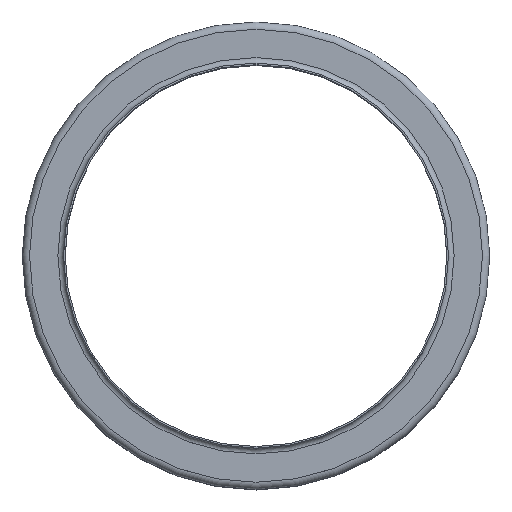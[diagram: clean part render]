
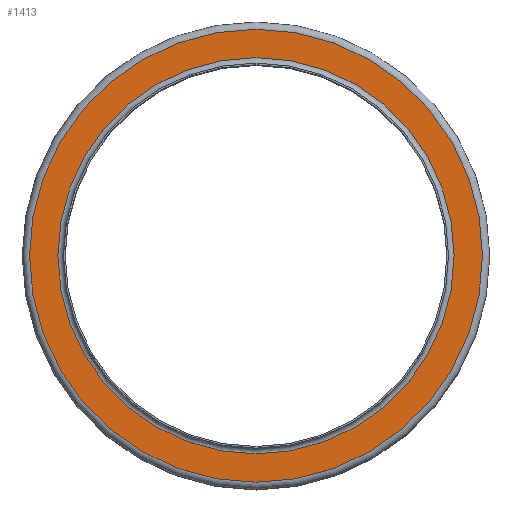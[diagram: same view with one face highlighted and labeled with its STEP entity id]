
A CAD part, top view. The second image highlights one B-rep face of the part: STEP entity #1413.
In plain terms, the highlighted planar face has unit normal (0, 0, 1).
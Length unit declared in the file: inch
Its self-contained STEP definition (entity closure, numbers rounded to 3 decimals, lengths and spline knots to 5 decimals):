
#127=FACE_BOUND('',#381,.T.);
#226=FACE_OUTER_BOUND('',#380,.T.);
#380=EDGE_LOOP('',(#1105));
#381=EDGE_LOOP('',(#1106));
#542=CIRCLE('',#1682,2.88725);
#543=CIRCLE('',#1684,3.30075);
#655=VERTEX_POINT('',#2578);
#656=VERTEX_POINT('',#2582);
#808=EDGE_CURVE('',#655,#655,#542,.T.);
#809=EDGE_CURVE('',#656,#656,#543,.T.);
#1105=ORIENTED_EDGE('',*,*,#809,.F.);
#1106=ORIENTED_EDGE('',*,*,#808,.T.);
#1203=PLANE('',#1683);
#1413=ADVANCED_FACE('',(#226,#127),#1203,.T.);
#1682=AXIS2_PLACEMENT_3D('',#2580,#2178,#2179);
#1683=AXIS2_PLACEMENT_3D('',#2581,#2180,#2181);
#1684=AXIS2_PLACEMENT_3D('',#2583,#2182,#2183);
#2178=DIRECTION('center_axis',(0.,0.,-1.));
#2179=DIRECTION('ref_axis',(1.,0.,0.));
#2180=DIRECTION('center_axis',(0.,0.,1.));
#2181=DIRECTION('ref_axis',(1.,0.,0.));
#2182=DIRECTION('center_axis',(0.,0.,-1.));
#2183=DIRECTION('ref_axis',(1.,0.,0.));
#2578=CARTESIAN_POINT('',(2.88725,0.,-0.08175));
#2580=CARTESIAN_POINT('Origin',(0.,0.,-0.08175));
#2581=CARTESIAN_POINT('Origin',(0.,3.30075,-0.08175));
#2582=CARTESIAN_POINT('',(3.30075,0.,-0.08175));
#2583=CARTESIAN_POINT('Origin',(0.,0.,-0.08175));
